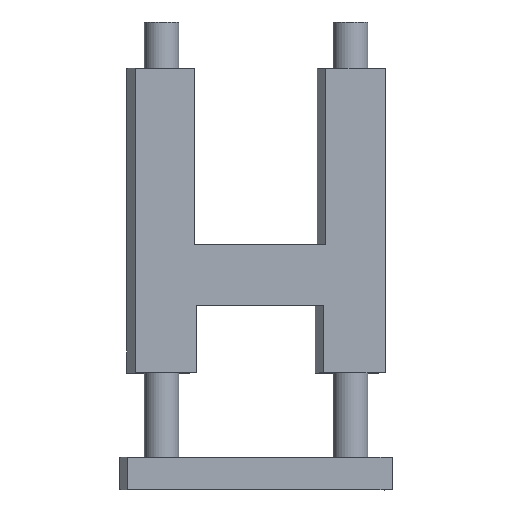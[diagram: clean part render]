
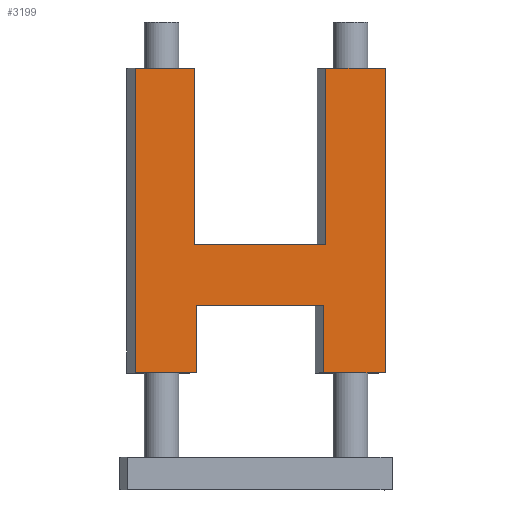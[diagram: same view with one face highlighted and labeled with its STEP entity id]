
A CAD part, top view. The second image highlights one B-rep face of the part: STEP entity #3199.
In plain terms, the highlighted planar face has unit normal (0.068, 0, 0.998) as drawn and (1, 0, 0) by its records, which use the part's own axes.
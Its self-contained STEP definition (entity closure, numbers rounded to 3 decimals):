
#13 = VERTEX_POINT ( 'NONE', #479 ) ;
#23 = DIRECTION ( 'NONE',  ( 0., -1., 0. ) ) ;
#46 = EDGE_CURVE ( 'NONE', #2717, #2839, #2519, .T. ) ;
#49 = VECTOR ( 'NONE', #806, 1000. ) ;
#58 = VECTOR ( 'NONE', #1061, 1000. ) ;
#85 = VERTEX_POINT ( 'NONE', #823 ) ;
#86 = CARTESIAN_POINT ( 'NONE',  ( 45.25, -99.7, 78.75 ) ) ;
#182 = LINE ( 'NONE', #3602, #2500 ) ;
#206 = CARTESIAN_POINT ( 'NONE',  ( 45.25, -18.7, 78.75 ) ) ;
#364 = CARTESIAN_POINT ( 'NONE',  ( 45.25, -18.7, 18.25 ) ) ;
#406 = CARTESIAN_POINT ( 'NONE',  ( 45.25, 40.3, 19.25 ) ) ;
#427 = EDGE_CURVE ( 'NONE', #1334, #435, #182, .T. ) ;
#435 = VERTEX_POINT ( 'NONE', #406 ) ;
#479 = CARTESIAN_POINT ( 'NONE',  ( 45.25, 40.3, -9. ) ) ;
#521 = VERTEX_POINT ( 'NONE', #2979 ) ;
#528 = CARTESIAN_POINT ( 'NONE',  ( 45.25, 40.3, 106. ) ) ;
#556 = LINE ( 'NONE', #2510, #3109 ) ;
#621 = ORIENTED_EDGE ( 'NONE', *, *, #3001, .F. ) ;
#708 = EDGE_CURVE ( 'NONE', #2471, #521, #3387, .T. ) ;
#718 = ORIENTED_EDGE ( 'NONE', *, *, #1428, .F. ) ;
#727 = VERTEX_POINT ( 'NONE', #2295 ) ;
#806 = DIRECTION ( 'NONE',  ( 0., 0., -1. ) ) ;
#817 = VECTOR ( 'NONE', #23, 1000. ) ;
#823 = CARTESIAN_POINT ( 'NONE',  ( 45.25, -18.7, 78.75 ) ) ;
#888 = VECTOR ( 'NONE', #1072, 1000. ) ;
#979 = CARTESIAN_POINT ( 'NONE',  ( 45.25, -99.7, -9. ) ) ;
#1006 = ORIENTED_EDGE ( 'NONE', *, *, #1870, .F. ) ;
#1032 = DIRECTION ( 'NONE',  ( 0., 0., 1. ) ) ;
#1033 = ORIENTED_EDGE ( 'NONE', *, *, #2482, .F. ) ;
#1061 = DIRECTION ( 'NONE',  ( 0., 0., 1. ) ) ;
#1072 = DIRECTION ( 'NONE',  ( 0., -1., 0. ) ) ;
#1098 = CARTESIAN_POINT ( 'NONE',  ( 45.25, -99.7, -9. ) ) ;
#1125 = CARTESIAN_POINT ( 'NONE',  ( 45.25, 9.3, 19.25 ) ) ;
#1130 = CARTESIAN_POINT ( 'NONE',  ( 45.25, -18.7, 18.25 ) ) ;
#1163 = CARTESIAN_POINT ( 'NONE',  ( 45.25, 40.3, 106. ) ) ;
#1292 = EDGE_CURVE ( 'NONE', #435, #13, #1688, .T. ) ;
#1313 = PLANE ( 'NONE',  #2642 ) ;
#1334 = VERTEX_POINT ( 'NONE', #1125 ) ;
#1338 = LINE ( 'NONE', #3650, #1347 ) ;
#1347 = VECTOR ( 'NONE', #3063, 1000. ) ;
#1428 = EDGE_CURVE ( 'NONE', #13, #2717, #1725, .T. ) ;
#1474 = VECTOR ( 'NONE', #3096, 1000. ) ;
#1599 = CARTESIAN_POINT ( 'NONE',  ( 45.25, -99.7, 106. ) ) ;
#1627 = DIRECTION ( 'NONE',  ( 0., 1., 0. ) ) ;
#1678 = DIRECTION ( 'NONE',  ( 0., -1., 0. ) ) ;
#1688 = LINE ( 'NONE', #528, #1474 ) ;
#1725 = LINE ( 'NONE', #2599, #817 ) ;
#1753 = ORIENTED_EDGE ( 'NONE', *, *, #2524, .F. ) ;
#1795 = LINE ( 'NONE', #1820, #2397 ) ;
#1820 = CARTESIAN_POINT ( 'NONE',  ( 45.25, -99.7, 106. ) ) ;
#1825 = LINE ( 'NONE', #3281, #2269 ) ;
#1841 = ORIENTED_EDGE ( 'NONE', *, *, #2000, .F. ) ;
#1870 = EDGE_CURVE ( 'NONE', #2839, #2904, #1825, .T. ) ;
#1915 = LINE ( 'NONE', #206, #2634 ) ;
#1973 = CARTESIAN_POINT ( 'NONE',  ( 45.25, -99.7, 18.25 ) ) ;
#2000 = EDGE_CURVE ( 'NONE', #727, #1334, #1338, .T. ) ;
#2022 = ORIENTED_EDGE ( 'NONE', *, *, #2208, .F. ) ;
#2133 = DIRECTION ( 'NONE',  ( 0., 1., 0. ) ) ;
#2208 = EDGE_CURVE ( 'NONE', #521, #727, #2513, .T. ) ;
#2254 = DIRECTION ( 'NONE',  ( 0., 0., 1. ) ) ;
#2269 = VECTOR ( 'NONE', #2133, 1000. ) ;
#2295 = CARTESIAN_POINT ( 'NONE',  ( 45.25, 9.3, 77.75 ) ) ;
#2356 = VERTEX_POINT ( 'NONE', #1599 ) ;
#2373 = ORIENTED_EDGE ( 'NONE', *, *, #708, .F. ) ;
#2397 = VECTOR ( 'NONE', #3232, 1000. ) ;
#2400 = ORIENTED_EDGE ( 'NONE', *, *, #1292, .F. ) ;
#2471 = VERTEX_POINT ( 'NONE', #3068 ) ;
#2482 = EDGE_CURVE ( 'NONE', #85, #3440, #1915, .T. ) ;
#2496 = DIRECTION ( 'NONE',  ( -1., 0., 0. ) ) ;
#2500 = VECTOR ( 'NONE', #1627, 1000. ) ;
#2510 = CARTESIAN_POINT ( 'NONE',  ( 45.25, -99.7, -9. ) ) ;
#2513 = LINE ( 'NONE', #3656, #888 ) ;
#2519 = LINE ( 'NONE', #1098, #3633 ) ;
#2524 = EDGE_CURVE ( 'NONE', #3440, #2356, #556, .T. ) ;
#2526 = CARTESIAN_POINT ( 'NONE',  ( 45.25, 0., 0. ) ) ;
#2599 = CARTESIAN_POINT ( 'NONE',  ( 45.25, 40.3, -9. ) ) ;
#2634 = VECTOR ( 'NONE', #1678, 1000. ) ;
#2642 = AXIS2_PLACEMENT_3D ( 'NONE', #2526, #2496, #1032 ) ;
#2717 = VERTEX_POINT ( 'NONE', #979 ) ;
#2747 = ORIENTED_EDGE ( 'NONE', *, *, #46, .F. ) ;
#2839 = VERTEX_POINT ( 'NONE', #1973 ) ;
#2904 = VERTEX_POINT ( 'NONE', #1130 ) ;
#2979 = CARTESIAN_POINT ( 'NONE',  ( 45.25, 40.3, 77.75 ) ) ;
#3001 = EDGE_CURVE ( 'NONE', #2356, #2471, #1795, .T. ) ;
#3005 = EDGE_LOOP ( 'NONE', ( #1753, #1033, #3185, #1006, #2747, #718, #2400, #3179, #1841, #2022, #2373, #621 ) ) ;
#3063 = DIRECTION ( 'NONE',  ( 0., 0., -1. ) ) ;
#3068 = CARTESIAN_POINT ( 'NONE',  ( 45.25, 40.3, 106. ) ) ;
#3096 = DIRECTION ( 'NONE',  ( 0., 0., -1. ) ) ;
#3109 = VECTOR ( 'NONE', #3323, 1000. ) ;
#3153 = EDGE_CURVE ( 'NONE', #2904, #85, #3521, .T. ) ;
#3179 = ORIENTED_EDGE ( 'NONE', *, *, #427, .F. ) ;
#3185 = ORIENTED_EDGE ( 'NONE', *, *, #3153, .F. ) ;
#3199 = ADVANCED_FACE ( 'NONE', ( #3600 ), #1313, .F. ) ;
#3232 = DIRECTION ( 'NONE',  ( 0., 1., 0. ) ) ;
#3281 = CARTESIAN_POINT ( 'NONE',  ( 45.25, -99.7, 18.25 ) ) ;
#3323 = DIRECTION ( 'NONE',  ( 0., 0., 1. ) ) ;
#3387 = LINE ( 'NONE', #1163, #49 ) ;
#3440 = VERTEX_POINT ( 'NONE', #86 ) ;
#3521 = LINE ( 'NONE', #364, #58 ) ;
#3600 = FACE_OUTER_BOUND ( 'NONE', #3005, .T. ) ;
#3602 = CARTESIAN_POINT ( 'NONE',  ( 45.25, 9.3, 19.25 ) ) ;
#3633 = VECTOR ( 'NONE', #2254, 1000. ) ;
#3650 = CARTESIAN_POINT ( 'NONE',  ( 45.25, 9.3, 77.75 ) ) ;
#3656 = CARTESIAN_POINT ( 'NONE',  ( 45.25, 40.3, 77.75 ) ) ;
